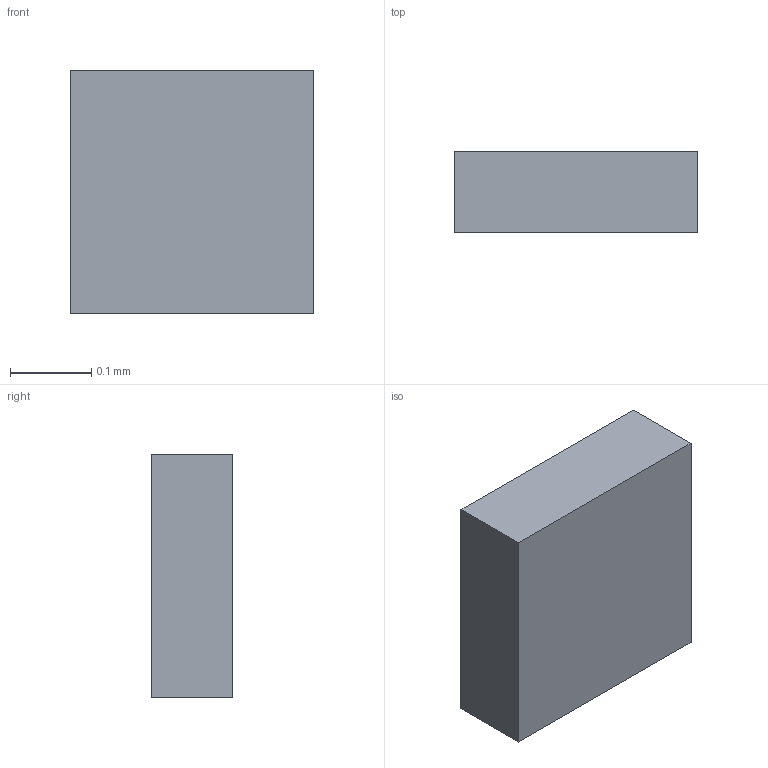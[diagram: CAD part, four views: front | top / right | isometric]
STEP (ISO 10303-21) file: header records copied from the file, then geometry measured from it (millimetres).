
FILE_DESCRIPTION(/* description */ ('STEP AP242 Edition 2','CAx-IF Rec.Pracs.---Representation and Presentation of Product Manufacturing Information (PMI)---4.0---2014-10-13','CAx-IF Rec.Pracs.---3D Tessellated Geometry---0.4---2014-09-14','2;1','CAx-IF Rec.Pracs.---User Defined Attributes---1.5---2016-08-15'),/* implementation_level */ '2;1');
FILE_NAME(/* name */ 'HIRO_Assembly - SMD Capacitor, Configurable, Raspberry Pi Pico-R3_C16 (2)',/* time_stamp */ '2026-11-04T05:23:28Z',/* author */ (''),/* organization */ (''),/* preprocessor_version */ 'ST-DEVELOPER v20',/* originating_system */ 'ONSHAPE BY PTC INC, 1.223',/* authorisation */ ' ');
FILE_SCHEMA (('AP242_MANAGED_MODEL_BASED_3D_ENGINEERING_MIM_LF { 1 0 10303 442 3 1 4 }'));
Length unit declared in the file: metre
Products named in the file (1): SMD Capacitor, Configurable, Raspberry Pi Pico-R3_C16
Bounding box: 0.3 x 0.1 x 0.3 mm (x, y, z)
Volume: 0 mm3; surface area: 0.3 mm2
Topology: 1 solids, 1 shells, 6 faces, 12 edges, 8 vertices
Faces by surface type: plane 6
Entity records: 178 total; most frequent: CARTESIAN_POINT 27, DIRECTION 26, ORIENTED_EDGE 24, EDGE_CURVE 12, LINE 12, VECTOR 12, VERTEX_POINT 8, AXIS2_PLACEMENT_3D 7
